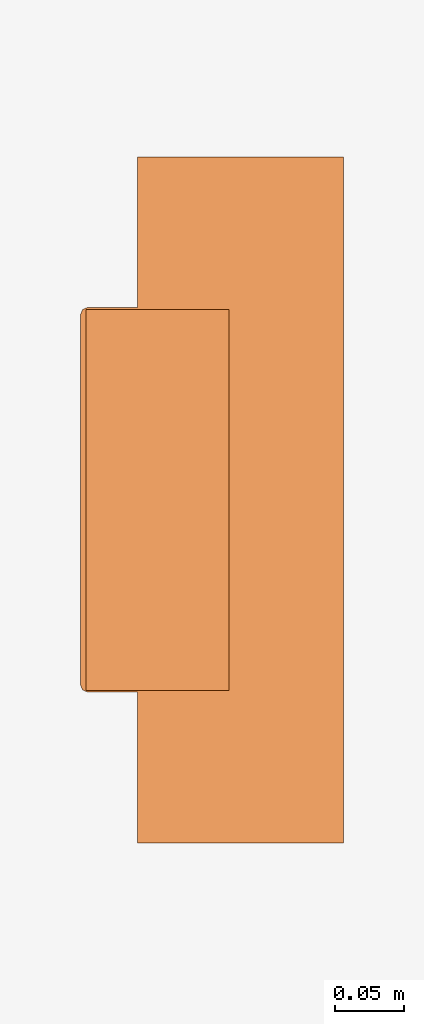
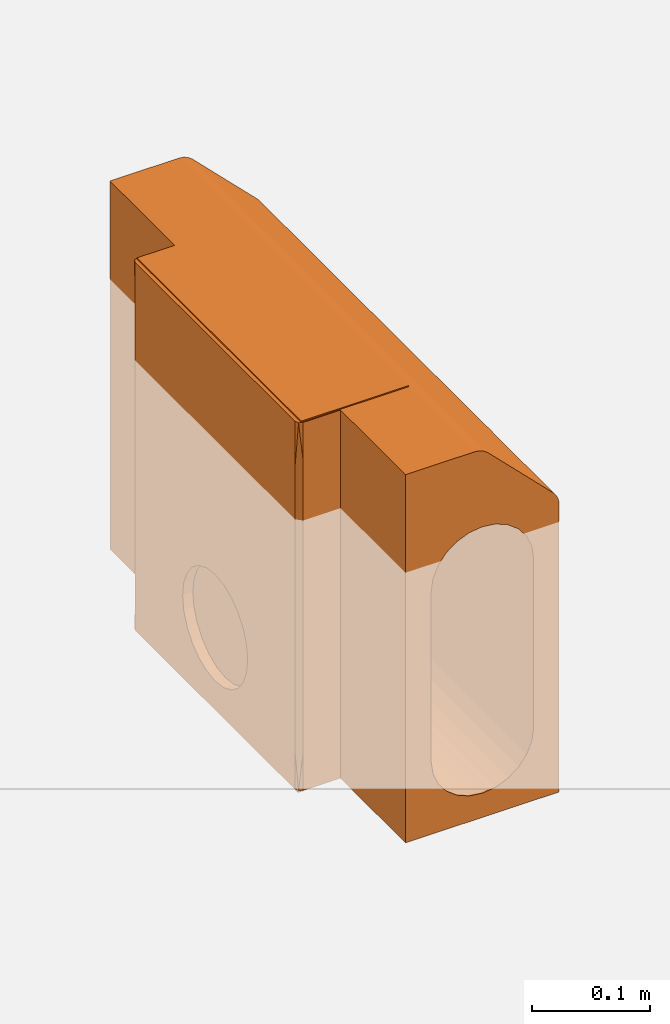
# One storey, part 2 of 2: 1 proxy.
"""IFC2X3 building model written with IfcOpenShell, lengths in millimetres."""

from ifc_helpers import new_model, entity, si_unit, converted_unit, direction, frame, origin, place, context, subcontext, project, spatial, faceted_brep, source, transform, mapped, material, material_list, element, save


model = new_model("IFC2X3")

# Units and contexts
model_context = context("Model", 3, precision=1e-06, world=origin(), true_north=direction((2.0, 6.12303176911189e-17, 1.0)))
context_of_model = context(None, 3, precision=1e-06, world=origin(), true_north=direction((2.0, 6.12303176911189e-17, 1.0)))
body_context = subcontext(model_context, "Body", "Model", "MODEL_VIEW")
ifc_project = project(units=[si_unit("LENGTHUNIT", "METRE", prefix="MILLI"), si_unit("AREAUNIT", "SQUARE_METRE", prefix="MILLI"), si_unit("VOLUMEUNIT", "CUBIC_METRE", prefix="MILLI"), converted_unit("PLANEANGLEUNIT", "DEGREE", entity("IfcRatioMeasure", 0.0174532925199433), si_unit("PLANEANGLEUNIT", "RADIAN"), dimensions=[0, 0, 0, 0, 0, 0, 0]), si_unit("TIMEUNIT", "SECOND")], contexts=[model_context, context_of_model])

# Site, building, storey
site_placement = place(None, origin())
site = spatial("IfcSite", under=ifc_project, at=site_placement, Name="Default", CompositionType="ELEMENT")
building_placement = place(site_placement, origin())
building = spatial("IfcBuilding", under=site, at=building_placement, CompositionType="ELEMENT")
storey_placement = place(building_placement, origin())
storey = spatial("IfcBuildingStorey", under=building, at=storey_placement, Name="Level 1", CompositionType="ELEMENT", Elevation=0.0)

# Proxy
ifc_material_1 = material(Name="ACO Polymer Concrete.")
ifc_material_2 = material(Name="Iron, Cast")
ifc_material_list = material_list([ifc_material_1, ifc_material_2])
shared_shape = source(origin(), body_context, "Body", "Brep", [
    faceted_brep([(-75.0, 0.0, -280.0), (-48.2962913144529, 0.0, -217.93767216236), (-50.0, 0.0, -204.996719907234), (-43.3012701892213, 0.0, -229.996719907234), (-50.0, 0.0, -30.0), (-75.0, 0.0, 100.0), (0.0, 0.0, -254.996719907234), (-12.9409522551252, 0.0, -253.293011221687), (75.0, 0.0, -280.0), (-35.3553390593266, 0.0, -240.352058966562), (-25.0, 0.0, -248.297990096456), (-48.2962913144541, 0.0, -17.0590477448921), (-43.3012701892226, 0.0, -5.0), (-35.3553390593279, 0.0, 5.35533905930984), (-25.0, 0.0, 13.3012701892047), (-7.87005768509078, 0.0, 100.0), (-12.9409522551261, 0.0, 18.2962913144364), (5.56497115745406, 0.0, 94.4350288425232), (1.62994231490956, 0.0, 97.4544826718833), (-2.95249582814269, 0.0, 99.3525906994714), (0.0, 0.0, 20.0), (25.0, 0.0, -248.297990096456), (12.9409522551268, 0.0, -253.293011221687), (43.3012701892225, 0.0, -229.996719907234), (35.355339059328, 0.0, -240.352058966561), (50.0, 0.0, -204.996719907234), (48.2962913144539, 0.0, -217.93767216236), (75.0, 0.0, 17.1299423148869), (50.0, 0.0, -30.0), (48.2962913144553, 0.0, -17.0590477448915), (12.9409522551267, 0.0, 18.2962913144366), (25.0, 0.0, 13.301270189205), (69.4350288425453, 0.0, 30.5649711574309), (35.3553390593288, 0.0, 5.35533905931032), (43.3012701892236, 0.0, -5.0), (74.3525906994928, 0.0, 22.0475041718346), (72.454482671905, 0.0, 26.6299423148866), (75.0, 500.0, -280.0), (48.2962913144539, 500.0, -217.93767216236), (50.0, 500.0, -204.996719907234), (75.0, 500.0, 17.129942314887), (43.3012701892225, 500.0, -229.996719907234), (50.0, 500.0, -30.0), (12.9409522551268, 500.0, -253.293011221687), (25.0, 500.0, -248.297990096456), (35.355339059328, 500.0, -240.352058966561), (0.0, 500.0, -254.996719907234), (-75.0, 500.0, -280.0), (48.2962913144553, 500.0, -17.0590477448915), (74.3525906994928, 500.0, 22.0475041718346), (69.4350288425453, 500.0, 30.5649711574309), (72.454482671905, 500.0, 26.6299423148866), (35.3553390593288, 500.0, 5.35533905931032), (25.0, 500.0, 13.301270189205), (5.56497115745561, 500.0, 94.4350288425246), (12.9409522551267, 500.0, 18.2962913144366), (0.0, 500.0, 20.0), (43.3012701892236, 500.0, -5.0), (-12.9409522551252, 500.0, -253.293011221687), (-35.3553390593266, 500.0, -240.352058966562), (-25.0, 500.0, -248.297990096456), (-43.3012701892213, 500.0, -229.996719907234), (-48.2962913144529, 500.0, -217.93767216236), (-50.0, 500.0, -204.996719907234), (-50.0, 500.0, -30.0), (-75.0, 500.0, 100.0), (-7.87005768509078, 500.0, 100.0), (-12.9409522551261, 500.0, 18.2962913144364), (-25.0, 500.0, 13.3012701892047), (-2.95249582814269, 500.0, 99.3525906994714), (1.62994231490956, 500.0, 97.4544826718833), (-43.3012701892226, 500.0, -5.0), (-48.2962913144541, 500.0, -17.0590477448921), (-35.3553390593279, 500.0, 5.35533905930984), (-27.5000000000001, 302.36860279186, -280.0), (-14.2350474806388, 296.874079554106, -280.0), (-38.8908729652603, 311.109127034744, -280.0), (0.0, 295.0, -280.0), (-55.0, 350.0, -280.0), (-53.1259204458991, 335.764952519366, -280.0), (-47.6313972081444, 322.500000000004, -280.0), (14.2350474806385, 296.874079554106, -280.0), (27.4999999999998, 302.368602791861, -280.0), (38.8908729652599, 311.109127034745, -280.0), (47.6313972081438, 322.500000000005, -280.0), (53.1259204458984, 335.764952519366, -280.0), (55.0, 350.0, -280.0), (-47.6313972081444, 377.500000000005, -280.0), (-53.1259204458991, 364.235047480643, -280.0), (-38.8908729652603, 388.890872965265, -280.0), (-27.5000000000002, 397.631397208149, -280.0), (-14.2350474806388, 403.125920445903, -280.0), (0.0, 405.0, -280.0), (53.1259204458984, 364.235047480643, -280.0), (47.6313972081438, 377.500000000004, -280.0), (27.4999999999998, 397.631397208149, -280.0), (14.2350474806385, 403.125920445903, -280.0), (38.8908729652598, 388.890872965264, -280.0), (75.0, 196.874079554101, -209.235047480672), (75.0, 195.0, -195.0), (75.0, 202.368602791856, -222.500000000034), (75.0, 196.874079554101, -180.764952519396), (75.0, 235.764952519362, -248.125920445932), (75.0, 222.5, -242.631397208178), (75.0, 211.10912703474, -233.890872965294), (75.0, 250.0, -250.0), (75.0, 202.368602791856, -167.500000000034), (75.0, 211.10912703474, -156.109127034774), (75.0, 222.5, -147.36860279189), (75.0, 235.764952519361, -141.874079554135), (75.0, 250.0, -140.0), (75.0, 76.0999806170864, 17.1299423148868), (75.0, 423.900019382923, 17.1299423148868), (75.0, 264.235047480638, -141.874079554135), (75.0, 264.235047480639, -248.125920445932), (75.0, 277.5, -242.631397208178), (75.0, 288.89087296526, -233.890872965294), (75.0, 297.631397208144, -222.500000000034), (75.0, 303.125920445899, -209.235047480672), (75.0, 305.0, -195.0), (75.0, 277.5, -147.368602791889), (75.0, 288.89087296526, -156.109127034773), (75.0, 303.125920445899, -180.764952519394), (75.0, 297.631397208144, -167.500000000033), (-7.87005768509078, 76.0999440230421, 100.0), (74.3018458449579, 204.650673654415, 22.2331215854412), (72.4176969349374, 255.098970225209, 26.6933740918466), (72.5576892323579, 181.661503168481, 26.4488975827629), (74.254893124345, 63.6418160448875, 22.3986116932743), (74.6849884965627, 120.209344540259, 20.5754038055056), (73.5537111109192, 117.766735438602, 24.4009275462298), (74.7044650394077, 385.850097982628, 20.468053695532), (74.3662597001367, 298.900065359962, 21.9962041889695), (75.0, 347.800038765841, 17.1299423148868), (69.4350288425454, 402.200266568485, 30.5649711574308), (72.633670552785, 436.358183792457, 26.3125892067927), (69.4350288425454, 76.09959497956, 30.5649711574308), (71.5864552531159, 114.149901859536, 27.9955952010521), (69.4350288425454, 152.1997282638, 30.5649711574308), (72.7550821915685, 62.2652863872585, 26.0891398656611), (73.5537111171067, 382.233264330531, 24.400927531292), (74.1827415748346, 437.734713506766, 22.6424652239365), (75.0, 250.0, 17.1299423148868), (72.7559125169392, 321.692867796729, 26.0875868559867), (71.7344399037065, 381.321069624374, 27.7801724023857), (75.0, 152.199961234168, 17.1299423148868), (69.4350288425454, 228.29986154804, 30.5649711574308), (69.4350288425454, 304.39999483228, 30.5649711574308), (5.56497115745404, 423.900065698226, 94.4350288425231), (-7.87005768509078, 423.900069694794, 100.0), (-2.60138830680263, 436.358183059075, 99.2548931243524), (-4.42459626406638, 379.790654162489, 99.6849885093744), (-0.599072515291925, 382.233262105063, 98.5537111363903), (1.08913984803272, 437.734711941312, 97.7550822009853), (-4.53194638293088, 114.149901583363, 99.7044650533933), (-2.35753488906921, 62.2652857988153, 99.1827416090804), (-0.599072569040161, 117.766733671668, 98.5537111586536), (1.31258906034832, 63.6418145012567, 97.6336706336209), (-7.87005768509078, 152.199874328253, 100.0), (-3.00379585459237, 201.099933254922, 99.3662597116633), (5.56497115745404, 97.8001276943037, 94.4350288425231), (1.08758675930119, 178.307130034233, 97.7559125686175), (2.7801723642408, 118.678927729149, 96.7344399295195), (1.44889748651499, 318.338493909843, 97.5576892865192), (-2.76687852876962, 295.3493245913, 99.3018458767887), (1.69337411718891, 244.90102749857, 97.417696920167), (2.99559514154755, 385.850094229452, 96.5864552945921), (-7.87005768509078, 250.000006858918, 100.0), (-7.87005768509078, 347.800139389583, 100.0), (5.56497115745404, 347.800127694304, 94.4350288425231), (5.56497115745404, 271.700189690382, 94.4350288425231), (5.56497115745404, 195.600255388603, 94.4350288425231), (-38.8908729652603, 388.890872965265, -272.635665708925), (-27.5000000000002, 397.631397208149, -272.635665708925), (-14.2350474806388, 403.125920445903, -272.635665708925), (0.0, 405.0, -272.635665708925), (-55.0, 350.0, -272.635665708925), (-53.1259204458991, 364.235047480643, -272.635665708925), (-47.6313972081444, 377.500000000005, -272.635665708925), (47.6313972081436, 322.500000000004, -272.635665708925), (14.2350474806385, 403.125920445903, -272.635665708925), (27.4999999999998, 397.631397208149, -272.635665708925), (53.1259204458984, 364.235047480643, -272.635665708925), (38.8908729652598, 388.890872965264, -272.635665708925), (47.6313972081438, 377.500000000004, -272.635665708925), (-47.6313972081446, 322.500000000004, -272.635665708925), (-53.1259204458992, 335.764952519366, -272.635665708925), (27.4999999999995, 302.36860279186, -272.635665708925), (-27.5000000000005, 302.36860279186, -272.635665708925), (-38.8908729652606, 311.109127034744, -272.635665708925), (-14.2350474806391, 296.874079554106, -272.635665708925), (14.2350474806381, 296.874079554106, -272.635665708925), (0.0, 295.0, -272.635665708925), (55.0, 350.0, -272.635665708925), (53.1259204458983, 335.764952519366, -272.635665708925), (38.8908729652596, 311.109127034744, -272.635665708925), (65.0, 264.235047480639, -248.125920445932), (65.0, 297.631397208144, -222.500000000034), (65.0, 303.125920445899, -209.235047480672), (65.0, 211.10912703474, -233.890872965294), (65.0, 277.5, -242.631397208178), (65.0, 288.89087296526, -233.890872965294), (65.0, 277.5, -147.368602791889), (65.0, 195.0, -195.0), (65.0, 305.0, -195.0), (65.0, 303.125920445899, -180.764952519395), (65.0, 297.631397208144, -167.500000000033), (65.0, 288.89087296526, -156.109127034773), (65.0, 264.235047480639, -141.874079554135), (65.0, 250.0, -140.0), (65.0, 222.5, -242.631397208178), (65.0, 250.0, -250.0), (65.0, 202.368602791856, -222.500000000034), (65.0, 196.874079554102, -209.235047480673), (65.0, 235.764952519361, -141.874079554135), (65.0, 222.5, -147.36860279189), (65.0, 211.10912703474, -156.109127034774), (65.0, 202.368602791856, -167.500000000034), (65.0, 196.874079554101, -180.764952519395), (65.0, 235.764952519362, -248.125920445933)], [[[0, 1, 2]], [[1, 0, 3]], [[0, 2, 4, 5]], [[6, 7, 0, 8]], [[9, 3, 0]], [[10, 9, 0]], [[7, 10, 0]], [[11, 12, 5]], [[5, 13, 14, 15]], [[13, 5, 12]], [[11, 5, 4]], [[15, 14, 16, 17]], [[18, 19, 15, 17]], [[20, 17, 16]], [[21, 22, 8]], [[23, 24, 8]], [[21, 8, 24]], [[25, 26, 8, 27]], [[8, 26, 23]], [[27, 28, 25]], [[29, 28, 27]], [[22, 6, 8]], [[30, 31, 32, 17]], [[20, 30, 17]], [[32, 31, 33, 27]], [[27, 34, 29]], [[35, 36, 32, 27]], [[27, 33, 34]], [[37, 38, 39, 40]], [[38, 37, 41]], [[40, 39, 42]], [[43, 44, 37]], [[45, 41, 37]], [[44, 45, 37]], [[46, 43, 37, 47]], [[42, 48, 40]], [[49, 40, 50, 51]], [[50, 40, 52, 53]], [[54, 50, 55, 56]], [[50, 53, 55]], [[52, 40, 57]], [[40, 48, 57]], [[58, 46, 47]], [[59, 60, 47]], [[58, 47, 60]], [[61, 47, 62]], [[47, 61, 59]], [[63, 62, 47]], [[64, 63, 47, 65]], [[66, 54, 67, 68]], [[66, 69, 70, 54]], [[54, 56, 67]], [[71, 72, 65]], [[68, 73, 65, 66]], [[65, 73, 71]], [[72, 64, 65]], [[0, 74, 75]], [[74, 0, 76]], [[0, 75, 77]], [[78, 79, 0, 47]], [[80, 76, 0]], [[79, 80, 0]], [[77, 81, 8, 0]], [[8, 81, 82]], [[82, 83, 8]], [[84, 85, 8]], [[83, 84, 8]], [[8, 85, 86, 37]], [[87, 88, 47]], [[89, 87, 47]], [[90, 47, 91]], [[47, 90, 89]], [[92, 91, 47, 37]], [[88, 78, 47]], [[93, 94, 37]], [[86, 93, 37]], [[95, 96, 37]], [[97, 37, 94]], [[37, 97, 95]], [[96, 92, 37]], [[8, 98, 99]], [[98, 8, 100]], [[8, 99, 101]], [[102, 103, 8]], [[104, 100, 8]], [[103, 104, 8]], [[105, 102, 8, 37]], [[101, 106, 27, 8]], [[27, 106, 107]], [[107, 108, 27]], [[27, 109, 110, 111]], [[108, 109, 27]], [[40, 112, 110, 113]], [[114, 105, 37]], [[115, 114, 37]], [[116, 37, 117]], [[37, 116, 115]], [[118, 117, 37]], [[37, 119, 118]], [[120, 121, 40]], [[113, 120, 40]], [[122, 119, 37, 40]], [[123, 40, 121]], [[40, 123, 122]], [[65, 5, 15, 124]], [[0, 5, 65, 47]], [[23, 26, 38, 41]], [[24, 23, 41, 45]], [[22, 21, 44, 43]], [[21, 24, 45, 44]], [[6, 22, 43, 46]], [[26, 25, 39, 38]], [[10, 7, 58, 60]], [[9, 10, 60, 59]], [[1, 3, 61, 62]], [[3, 9, 59, 61]], [[2, 1, 62, 63]], [[46, 58, 7, 6]], [[64, 4, 2, 63]], [[12, 11, 72, 71]], [[13, 12, 71, 73]], [[16, 14, 68, 67]], [[14, 13, 73, 68]], [[20, 16, 67, 56]], [[11, 4, 64, 72]], [[31, 30, 55, 53]], [[33, 31, 53, 52]], [[29, 34, 57, 48]], [[34, 33, 52, 57]], [[28, 29, 48, 42]], [[56, 55, 30, 20]], [[39, 25, 28, 42]], [[125, 126, 127]], [[128, 129, 130]], [[131, 132, 133]], [[27, 111, 128]], [[134, 135, 50]], [[136, 137, 138]], [[139, 35, 128]], [[135, 140, 141]], [[132, 125, 142]], [[143, 140, 144]], [[137, 139, 130]], [[131, 141, 140]], [[133, 132, 142]], [[135, 141, 51]], [[125, 145, 142]], [[112, 131, 133]], [[140, 135, 144]], [[112, 40, 49]], [[136, 32, 36]], [[128, 130, 139]], [[138, 137, 127]], [[125, 132, 126]], [[125, 130, 129]], [[143, 132, 140]], [[146, 138, 127]], [[141, 112, 49]], [[132, 131, 140]], [[112, 141, 131]], [[51, 141, 49]], [[50, 135, 51]], [[144, 135, 134]], [[134, 147, 144]], [[143, 147, 126]], [[147, 143, 144]], [[132, 143, 126]], [[139, 136, 36]], [[127, 137, 130]], [[125, 127, 130]], [[126, 146, 127]], [[136, 139, 137]], [[35, 139, 36]], [[27, 128, 35]], [[129, 111, 145]], [[111, 129, 128]], [[125, 129, 145]], [[126, 147, 146]], [[54, 148, 32, 136]], [[66, 149, 150]], [[150, 151, 152]], [[148, 54, 70]], [[153, 69, 150]], [[154, 155, 156]], [[157, 155, 18]], [[158, 154, 159]], [[157, 156, 155]], [[160, 157, 17]], [[161, 156, 162]], [[163, 164, 165]], [[166, 153, 152]], [[158, 159, 167]], [[167, 159, 164]], [[164, 168, 167]], [[124, 154, 158]], [[156, 157, 162]], [[124, 15, 19]], [[169, 148, 166]], [[150, 152, 153]], [[169, 166, 163]], [[164, 159, 165]], [[164, 152, 151]], [[161, 159, 156]], [[170, 169, 163]], [[155, 124, 19]], [[159, 154, 156]], [[124, 155, 154]], [[18, 155, 19]], [[17, 157, 18]], [[162, 157, 160]], [[160, 171, 162]], [[161, 171, 165]], [[171, 161, 162]], [[159, 161, 165]], [[153, 148, 70]], [[163, 166, 152]], [[164, 163, 152]], [[165, 170, 163]], [[148, 153, 166]], [[69, 153, 70]], [[66, 150, 69]], [[151, 149, 168]], [[149, 151, 150]], [[164, 151, 168]], [[165, 171, 170]], [[172, 173, 174, 175]], [[176, 177, 178, 179]], [[178, 172, 180, 181]], [[182, 179, 178, 181]], [[172, 175, 180]], [[183, 184, 182, 181]], [[185, 186, 187, 188]], [[189, 185, 188]], [[190, 188, 191, 192]], [[193, 194, 179, 182]], [[179, 195, 187, 186]], [[187, 191, 188]], [[186, 176, 179]], [[182, 93, 86, 193]], [[184, 94, 93, 182]], [[181, 95, 97, 183]], [[183, 97, 94, 184]], [[180, 96, 95, 181]], [[96, 180, 175, 92]], [[174, 91, 92, 175]], [[173, 90, 91, 174]], [[178, 87, 89, 172]], [[172, 89, 90, 173]], [[177, 88, 87, 178]], [[88, 177, 176, 78]], [[186, 79, 78, 176]], [[185, 80, 79, 186]], [[188, 74, 76, 189]], [[189, 76, 80, 185]], [[190, 75, 74, 188]], [[75, 190, 192, 77]], [[191, 81, 77, 192]], [[187, 82, 81, 191]], [[179, 84, 83, 195]], [[195, 83, 82, 187]], [[194, 85, 84, 179]], [[85, 194, 193, 86]], [[196, 197, 198, 199]], [[200, 201, 197, 196]], [[202, 203, 198, 204]], [[204, 205, 206, 207]], [[207, 202, 204]], [[202, 208, 209, 203]], [[210, 211, 196, 199]], [[212, 199, 198, 203]], [[203, 213, 212]], [[209, 214, 215, 203]], [[215, 216, 217, 203]], [[203, 217, 218]], [[219, 211, 210]], [[218, 101, 99, 203]], [[217, 106, 101, 218]], [[215, 108, 107, 216]], [[216, 107, 106, 217]], [[214, 109, 108, 215]], [[109, 214, 209, 110]], [[208, 113, 110, 209]], [[202, 120, 113, 208]], [[206, 123, 121, 207]], [[207, 121, 120, 202]], [[205, 122, 123, 206]], [[122, 205, 204, 119]], [[198, 118, 119, 204]], [[197, 117, 118, 198]], [[200, 115, 116, 201]], [[201, 116, 117, 197]], [[196, 114, 115, 200]], [[114, 196, 211, 105]], [[219, 102, 105, 211]], [[210, 103, 102, 219]], [[212, 100, 104, 199]], [[199, 104, 103, 210]], [[213, 98, 100, 212]], [[98, 213, 203, 99]], [[110, 112, 133, 142]], [[110, 142, 145, 111]], [[65, 124, 158, 167]], [[65, 167, 168, 149]], [[65, 149, 66]], [[32, 148, 169, 170]], [[32, 170, 171, 160]], [[32, 160, 17]], [[54, 136, 138, 146]], [[54, 146, 147, 134]], [[54, 134, 50]]]),
    faceted_brep([(-112.723419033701, 111.0, 101.144067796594), (-112.723419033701, 111.0, 98.2637317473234), (-8.19512393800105, 111.0, 98.2637317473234), (-8.19512393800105, 111.0, 101.144067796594), (-8.19512393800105, 389.0, 101.144067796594), (-8.19512393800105, 389.0, 98.2637317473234), (-112.723419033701, 389.0, 98.2637317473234), (-112.723419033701, 389.0, 101.144067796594)], [[[0, 1, 2, 3]], [[4, 5, 6, 7]], [[6, 5, 2, 1]], [[7, 6, 1, 0]], [[5, 4, 3, 2]], [[4, 7, 0, 3]]]),
    faceted_brep([(-116.540041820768, 385.35094157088, 100.0), (-75.0, 250.0, 100.0), (-75.0, 390.35094157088, 100.0), (-111.540041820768, 390.35094157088, 100.0), (-116.540041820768, 115.0, 100.0), (-75.0, 110.0, 100.0), (-115.075575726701, 111.464466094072, 100.0), (-111.540041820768, 110.0, 100.0), (-115.075575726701, 388.886475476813, 100.0), (-75.0, 250.0, -280.0), (-116.540041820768, 115.0, -280.0), (-116.540041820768, 385.35094157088, -280.0), (-75.0, 390.35094157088, -280.0), (-111.540041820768, 110.0, -280.0), (-115.075575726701, 111.464466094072, -280.0), (-75.0, 110.0, -280.0), (-115.075575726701, 388.886475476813, -280.0), (-111.540041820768, 390.35094157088, -280.0), (-111.540041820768, 390.35094157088, 60.9615546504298), (-111.540041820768, 390.35094157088, -240.961559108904), (-111.540041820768, 390.35094157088, -201.92311821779), (-116.540041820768, 277.5, -147.368602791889), (-116.540041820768, 264.235047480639, -141.874079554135), (-116.540041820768, 288.89087296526, -156.109127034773), (-116.540041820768, 250.0, -140.0), (-116.540041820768, 305.0, -195.0), (-116.540041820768, 303.125920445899, -180.764952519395), (-116.540041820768, 385.35094157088, -240.961556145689), (-116.540041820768, 297.631397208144, -167.500000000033), (-116.540041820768, 385.35094157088, 60.9615561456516), (-116.540041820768, 235.764952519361, -141.874079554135), (-116.540041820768, 222.5, -147.36860279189), (-116.540041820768, 211.10912703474, -156.109127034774), (-116.540041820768, 202.368602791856, -167.500000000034), (-116.540041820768, 196.874079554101, -180.764952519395), (-116.540041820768, 115.0, -240.961556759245), (-116.540041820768, 195.0, -195.0), (-116.540041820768, 297.631397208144, -222.500000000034), (-116.540041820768, 303.125920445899, -209.235047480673), (-116.540041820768, 288.89087296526, -233.890872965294), (-116.540041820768, 277.5, -242.631397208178), (-116.540041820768, 264.235047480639, -248.125920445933), (-116.540041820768, 250.0, -250.0), (-116.540041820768, 196.874079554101, -209.235047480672), (-116.540041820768, 202.368602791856, -222.500000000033), (-116.540041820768, 222.5, -242.631397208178), (-116.540041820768, 235.764952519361, -248.125920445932), (-116.540041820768, 211.10912703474, -233.890872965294), (-111.540041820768, 110.0, 60.9615556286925), (-111.540041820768, 110.0, 44.0384430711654), (-111.540041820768, 390.35094157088, -42.5000005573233), (-116.540041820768, 385.35094157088, -56.1537754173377), (-116.540041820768, 385.35094157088, -17.1153315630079), (-111.540041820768, 390.35094157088, 5.00000111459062), (-116.540041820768, 385.35094157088, -168.076887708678), (-116.540041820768, 385.35094157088, -140.096106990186), (-111.540041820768, 390.35094157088, -145.961560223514), (-111.540041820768, 390.35094157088, -173.94234144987), (-116.540041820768, 385.35094157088, -196.057668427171), (-116.540041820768, 385.35094157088, -224.038438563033), (-111.540041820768, 390.35094157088, -90.0000022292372), (-116.540041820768, 385.35094157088, -112.115336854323), (-116.540041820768, 385.35094157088, -84.1345561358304), (-111.540041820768, 390.35094157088, 32.9807778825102), (-116.540041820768, 385.35094157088, 21.9231122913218), (-111.540041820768, 390.35094157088, -117.980778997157), (-111.540041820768, 110.0, -162.884669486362), (-116.540041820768, 115.0, -137.500000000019), (-116.540041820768, 115.0, -185.0), (-111.540041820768, 110.0, -201.923112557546), (-116.540041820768, 115.0, 52.4999999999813), (-111.540041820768, 110.0, 16.0576652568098), (-116.540041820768, 115.0, 5.0), (-111.540041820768, 110.0, -11.9231125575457), (-116.540041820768, 115.0, -212.980778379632), (-111.540041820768, 110.0, -240.96155562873), (-111.540041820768, 110.0, -67.8846694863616), (-111.540041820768, 110.0, -39.9038916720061), (-116.540041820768, 115.0, -42.5000000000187), (-116.540041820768, 115.0, -90.0), (-111.540041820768, 110.0, -95.8654473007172), (-111.540041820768, 110.0, -123.846226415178), (-106.540041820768, 264.235047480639, -248.125920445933), (-106.540041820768, 250.0, -250.0), (-106.540041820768, 277.5, -242.631397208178), (-106.540041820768, 288.89087296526, -233.890872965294), (-106.540041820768, 305.0, -195.0), (-106.540041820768, 297.631397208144, -222.500000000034), (-106.540041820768, 303.125920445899, -209.235047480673), (-106.540041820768, 202.368602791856, -222.500000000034), (-106.540041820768, 303.125920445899, -180.764952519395), (-106.540041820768, 235.764952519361, -248.125920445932), (-106.540041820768, 222.5, -242.631397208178), (-106.540041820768, 211.10912703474, -233.890872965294), (-106.540041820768, 196.874079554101, -209.235047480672), (-106.540041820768, 195.0, -195.0), (-106.540041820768, 297.631397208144, -167.500000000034), (-106.540041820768, 250.0, -140.0), (-106.540041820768, 277.5, -147.36860279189), (-106.540041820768, 288.89087296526, -156.109127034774), (-106.540041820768, 264.235047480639, -141.874079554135), (-106.540041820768, 235.764952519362, -141.874079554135), (-106.540041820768, 196.874079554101, -180.764952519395), (-106.540041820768, 202.368602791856, -167.500000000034), (-106.540041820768, 211.10912703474, -156.109127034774), (-106.540041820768, 222.5, -147.36860279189)], [[[0, 1, 2, 3]], [[4, 5, 1, 0]], [[4, 6, 7, 5]], [[0, 3, 8]], [[9, 10, 11, 12]], [[13, 14, 10, 15]], [[11, 16, 17, 12]], [[10, 9, 15]], [[3, 2, 12, 18]], [[12, 17, 19, 20]], [[0, 21, 22]], [[21, 0, 23]], [[0, 22, 24]], [[11, 25, 26, 27]], [[28, 23, 0]], [[26, 28, 0, 29]], [[24, 30, 4, 0]], [[4, 30, 31]], [[31, 32, 4]], [[33, 34, 4]], [[32, 33, 4]], [[10, 35, 34, 36]], [[37, 38, 11]], [[39, 37, 11]], [[40, 11, 41]], [[11, 40, 39]], [[42, 41, 11, 10]], [[38, 25, 11]], [[43, 44, 10]], [[36, 43, 10]], [[45, 46, 10]], [[47, 10, 44]], [[10, 47, 45]], [[46, 42, 10]], [[5, 7, 48, 49]], [[13, 15, 5]], [[9, 1, 5, 15]], [[12, 2, 1, 9]], [[50, 51, 52, 53]], [[54, 55, 56, 57]], [[58, 54, 57, 20]], [[59, 20, 19, 27]], [[60, 61, 62, 51]], [[18, 29, 8]], [[16, 11, 27]], [[29, 18, 63, 64]], [[60, 51, 50]], [[64, 63, 53, 52]], [[8, 3, 18]], [[19, 17, 16]], [[29, 0, 8]], [[16, 27, 19]], [[20, 59, 58]], [[65, 56, 55, 61]], [[61, 60, 65]], [[66, 67, 68, 69]], [[49, 48, 70, 71]], [[72, 73, 71, 70]], [[74, 75, 69, 68]], [[76, 77, 78, 79]], [[14, 75, 35]], [[35, 10, 14]], [[78, 77, 73, 72]], [[70, 6, 4]], [[80, 76, 79]], [[70, 48, 6]], [[14, 13, 75]], [[48, 7, 6]], [[79, 67, 81, 80]], [[81, 67, 66]], [[74, 35, 75]], [[82, 83, 84]], [[85, 84, 86, 87]], [[86, 88, 87]], [[86, 84, 89, 90]], [[83, 91, 92, 84]], [[92, 93, 89, 84]], [[89, 94, 95, 90]], [[96, 90, 97, 98]], [[99, 96, 98]], [[97, 100, 98]], [[101, 97, 90]], [[102, 103, 104, 95]], [[104, 105, 101, 90]], [[90, 95, 104]], [[94, 43, 36, 95]], [[89, 44, 43, 94]], [[92, 45, 47, 93]], [[93, 47, 44, 89]], [[91, 46, 45, 92]], [[46, 91, 83, 42]], [[82, 41, 42, 83]], [[84, 40, 41, 82]], [[87, 37, 39, 85]], [[85, 39, 40, 84]], [[88, 38, 37, 87]], [[38, 88, 86, 25]], [[90, 26, 25, 86]], [[96, 28, 26, 90]], [[98, 21, 23, 99]], [[99, 23, 28, 96]], [[100, 22, 21, 98]], [[22, 100, 97, 24]], [[101, 30, 24, 97]], [[105, 31, 30, 101]], [[103, 33, 32, 104]], [[104, 32, 31, 105]], [[102, 34, 33, 103]], [[34, 102, 95, 36]], [[12, 20, 57, 56]], [[12, 56, 65, 60]], [[12, 60, 50, 53]], [[12, 53, 63, 18]], [[26, 29, 64, 52]], [[26, 52, 51, 62]], [[26, 62, 61, 55]], [[26, 55, 54, 58]], [[26, 58, 59, 27]], [[34, 35, 74, 68]], [[34, 68, 67, 79]], [[34, 79, 78, 72]], [[34, 72, 70, 4]], [[5, 49, 71, 73]], [[5, 73, 77, 76]], [[5, 76, 80, 81]], [[5, 81, 66, 69]], [[5, 69, 75, 13]]]),
])
proxy_placement = place(storey_placement, frame((-13330.2750822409, -1412.72179195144, 0.0)))
element("IfcBuildingElementProxy", 1, at=proxy_placement, inside=storey, material=ifc_material_list, Name="Civil-Drainage-Channel-ACO-KerbDrain-SP380:4242 - Access Unit - 500mm LG:4242 - Access Unit - 500mm LG", ObjectType="4242 - Access Unit - 500mm LG", CompositionType="ELEMENT", context=body_context, shape_type="MappedRepresentation", body=[
    mapped(shared_shape, transform((0.0, 0.0, 0.0), scale=1.0)),
])

save(model, "model.ifc")
